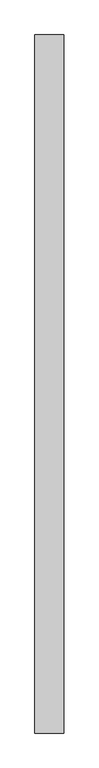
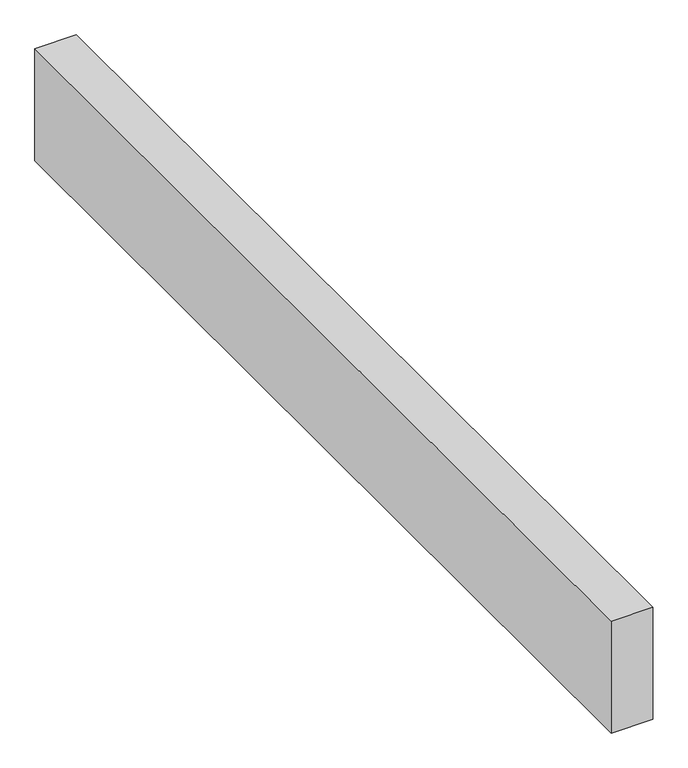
"""IFC4 building model written with IfcOpenShell, lengths in millimetres: proxy geometry."""

import ifcopenshell
import ifcopenshell.guid

model = None  # the IFC model being written
_history = None  # IfcOwnerHistory: only IFC2X3 demands one
_inside = {}  # id of a spatial element -> (the spatial element, [elements in it])
_under = {}  # id of a project, library or spatial element -> (it, [spatial elements below it])
_declared = {}  # id of a project -> (the project, [libraries it declares])
_typed = {}  # id of a type object -> (the type object, [elements of that type])
_made_of = {}  # id of a material, layer set ... -> (it, [elements and type objects made of it])


def new_model(schema):
    """Start an empty IFC model of exactly this schema.

    Asked for "IFC4X3", IfcOpenShell would pick the latest addendum, in which some entities
    have other attributes; the version numbers below select the first issue.
    IFC2X3 requires an IfcOwnerHistory on every rooted entity: one is made here for all.
    """
    global model, _history
    if schema == "IFC4X3":
        model = ifcopenshell.file(schema_version=(4, 3, 0, 0))
    else:
        model = ifcopenshell.file(schema=schema)
    _inside.clear()
    _under.clear()
    _declared.clear()
    _typed.clear()
    _made_of.clear()
    _history = None
    if model.schema == "IFC2X3":
        org = make("IfcOrganization", Name="unknown")
        user = make(
            "IfcPersonAndOrganization",
            ThePerson=make("IfcPerson", FamilyName="unknown"),
            TheOrganization=org,
        )
        app = make(
            "IfcApplication",
            ApplicationDeveloper=org,
            Version="unknown",
            ApplicationFullName="unknown",
            ApplicationIdentifier="unknown",
        )
        _history = make(
            "IfcOwnerHistory",
            OwningUser=user,
            OwningApplication=app,
            ChangeAction="ADDED",
            CreationDate=0,
        )
    return model


def make(cls, **values):
    """One entity of the class cls with the attributes given. An attribute that is None is left unset."""
    return model.create_entity(
        cls, **{name: value for name, value in values.items() if value is not None}
    )


def rooted(cls, **values):
    """An entity with a GlobalId (a new one), such as an element, a storey or a relation."""
    return make(cls, GlobalId=ifcopenshell.guid.new(), OwnerHistory=_history, **values)


def si_unit(unit_type, name, prefix=None):
    """IfcSIUnit, for example si_unit("LENGTHUNIT", "METRE", prefix="MILLI")."""
    return make("IfcSIUnit", UnitType=unit_type, Prefix=prefix, Name=name)


def assignment(units):
    """IfcUnitAssignment: the units of a project."""
    return None if units is None else make("IfcUnitAssignment", Units=units)


def point(xyz):
    """IfcCartesianPoint."""
    return None if xyz is None else make("IfcCartesianPoint", Coordinates=xyz)


def direction(xyz):
    """IfcDirection."""
    return None if xyz is None else make("IfcDirection", DirectionRatios=xyz)


def frame(location, z_axis=None, x_axis=None):
    """IfcAxis2Placement3D, a coordinate frame: its origin and axes. An axis left out is left unset."""
    return make(
        "IfcAxis2Placement3D",
        Location=point(location),
        Axis=direction(z_axis),
        RefDirection=direction(x_axis),
    )


def origin():
    """The frame at (0, 0, 0) with its axes left unset."""
    return frame((0.0, 0.0, 0.0))


def place(relative_to, where):
    """IfcLocalPlacement: puts the frame where relative to a parent placement (None: the world)."""
    return make(
        "IfcLocalPlacement", PlacementRelTo=relative_to, RelativePlacement=where
    )


def context(
    kind, dimensions, precision=None, world=None, true_north=None, identifier=None
):
    """IfcGeometricRepresentationContext, for example the 3D "Model" context."""
    return make(
        "IfcGeometricRepresentationContext",
        ContextIdentifier=identifier,
        ContextType=kind,
        CoordinateSpaceDimension=dimensions,
        Precision=precision,
        WorldCoordinateSystem=world,
        TrueNorth=true_north,
    )


def project(units=None, contexts=None):
    """IfcProject with its units and contexts."""
    return rooted(
        "IfcProject",
        Name="project",
        RepresentationContexts=contexts,
        UnitsInContext=assignment(units),
    )


def spatial(cls, under=None, at=None, **own):
    """A site, building, storey or space (cls), placed at a placement, below another one or the project."""
    s = rooted(cls, ObjectPlacement=at, **own)
    if under is not None:
        _under.setdefault(under.id(), (under, []))[1].append(s)
    return s


def polyline(points):
    """IfcPolyline through the points."""
    return make("IfcPolyline", Points=[point(p) for p in points])


def outline(outer, holes=None, kind="AREA"):
    """IfcArbitraryClosedProfileDef: a profile drawn as a closed curve; with holes, ...WithVoids."""
    if holes is None:
        return make("IfcArbitraryClosedProfileDef", ProfileType=kind, OuterCurve=outer)
    return make(
        "IfcArbitraryProfileDefWithVoids",
        ProfileType=kind,
        OuterCurve=outer,
        InnerCurves=holes,
    )


def extrude(swept, where, along, depth):
    """IfcExtrudedAreaSolid: the profile swept, set in the frame where, extruded along a direction by depth."""
    return make(
        "IfcExtrudedAreaSolid",
        SweptArea=swept,
        Position=where,
        ExtrudedDirection=direction(along),
        Depth=depth,
    )


def shape(context_of_items, identifier, shape_type, items):
    """IfcShapeRepresentation: the items that make up one representation, for example the "Body"."""
    return make(
        "IfcShapeRepresentation",
        ContextOfItems=context_of_items,
        RepresentationIdentifier=identifier,
        RepresentationType=shape_type,
        Items=items,
    )


def source(mapping_origin, context_of_items, identifier, shape_type, items):
    """IfcRepresentationMap: a shape defined once, which mapped items show again and again."""
    return make(
        "IfcRepresentationMap",
        MappingOrigin=mapping_origin,
        MappedRepresentation=shape(context_of_items, identifier, shape_type, items),
    )


def transform(
    local_origin,
    x_axis=None,
    y_axis=None,
    z_axis=None,
    scale=None,
    scale2=None,
    scale3=None,
    uniform=True,
):
    """IfcCartesianTransformationOperator3D, or its non-uniform kind. x_axis, y_axis, z_axis: its Axis1, 2, 3."""
    if uniform:
        return make(
            "IfcCartesianTransformationOperator3D",
            Axis1=direction(x_axis),
            Axis2=direction(y_axis),
            LocalOrigin=point(local_origin),
            Scale=scale,
            Axis3=direction(z_axis),
        )
    return make(
        "IfcCartesianTransformationOperator3DnonUniform",
        Axis1=direction(x_axis),
        Axis2=direction(y_axis),
        LocalOrigin=point(local_origin),
        Scale=scale,
        Axis3=direction(z_axis),
        Scale2=scale2,
        Scale3=scale3,
    )


def mapped(mapping_source, mapping_target):
    """IfcMappedItem: shows the shape of a source again, moved by a transform."""
    return make(
        "IfcMappedItem", MappingSource=mapping_source, MappingTarget=mapping_target
    )


def made_of(thing, what):
    """Note that an element or type object is made of a material, layer set ...; save() writes the relation."""
    if what is not None:
        _made_of.setdefault(what.id(), (what, []))[1].append(thing)
    return thing


def element(
    cls,
    number,
    at=None,
    inside=None,
    cuts=None,
    type_object=None,
    material=None,
    context=None,
    identifier="Body",
    shape_type=None,
    held_by="IfcProductDefinitionShape",
    body=None,
    shapes=None,
    **own,
):
    """One element of the class cls, such as IfcWall. Its Tag is "e" and its number.

    at: its placement. inside: the storey or other place that contains it. cuts: it is an
    opening in that element (IfcRelVoidsElement). A single representation is given by context,
    identifier, shape_type and body (its items); several are given by shapes. held_by: the class
    of the entity that holds the representations. save() writes the other relations.
    """
    e = rooted(cls, Tag="e%d" % number, ObjectPlacement=at, **own)
    if body is not None:
        shapes = [shape(context, identifier, shape_type, body)]
    if shapes is not None:
        e.Representation = make(held_by, Representations=shapes)
    if inside is not None:
        _inside.setdefault(inside.id(), (inside, []))[1].append(e)
    if cuts is not None:
        rooted(
            "IfcRelVoidsElement", RelatingBuildingElement=cuts, RelatedOpeningElement=e
        )
    if type_object is not None:
        _typed.setdefault(type_object.id(), (type_object, []))[1].append(e)
    return made_of(e, material)


def aggregate(whole, parts):
    """IfcRelAggregates: a whole, such as a stair, and the parts it consists of."""
    return rooted("IfcRelAggregates", RelatingObject=whole, RelatedObjects=parts)


def save(model, path):
    """Write the relations noted so far, then the file.

    IfcRelAggregates (storeys below a building ...), IfcRelContainedInSpatialStructure (elements
    in a storey), IfcRelDefinesByType, IfcRelAssociatesMaterial and IfcRelDeclares: one each for
    every whole, place, type object, material and project.
    """
    for whole, parts in _under.values():
        aggregate(whole, parts)
    for where, things in _inside.values():
        rooted(
            "IfcRelContainedInSpatialStructure",
            RelatedElements=things,
            RelatingStructure=where,
        )
    for kind, things in _typed.values():
        rooted("IfcRelDefinesByType", RelatedObjects=things, RelatingType=kind)
    for what, things in _made_of.values():
        rooted("IfcRelAssociatesMaterial", RelatedObjects=things, RelatingMaterial=what)
    for by, libraries in _declared.values():
        rooted("IfcRelDeclares", RelatingContext=by, RelatedDefinitions=libraries)
    model.write(path)


def structural_framing_04662860(model_context):
    return source(origin(), model_context, "Body", "SweptSolid", [
        extrude(outline(polyline([(70.0, -1687.4), (-70.0, -1687.4), (-70.0, 1687.4), (70.0, 1687.4), (70.0, -1687.4)])), frame((0.0, 0.0, -400.0), z_axis=(0.0, 0.0, 1.0), x_axis=(1.0, 0.0, 0.0)), (0.0, 0.0, 1.0), 400.0),
    ])


if __name__ == "__main__":
    model = new_model("IFC4")
    model_context = context("Model", 3, world=origin())
    ifc_project = project(units=[si_unit("LENGTHUNIT", "METRE", prefix="MILLI")], contexts=[model_context])
    site = spatial("IfcSite", under=ifc_project)
    building = spatial("IfcBuilding", under=site)
    placement = place(None, origin())
    structural_framing_shape = structural_framing_04662860(model_context)
    element("IfcBuildingElementProxy", 1, Name="Structural Framing", at=placement, inside=building, context=model_context, shape_type="MappedRepresentation", body=[
        mapped(structural_framing_shape, transform((0.0, 0.0, 0.0), x_axis=(1.0, 0.0, 0.0), y_axis=(0.0, 1.0, 0.0), z_axis=(0.0, 0.0, 1.0))),
    ])
    save(model, "model.ifc")
